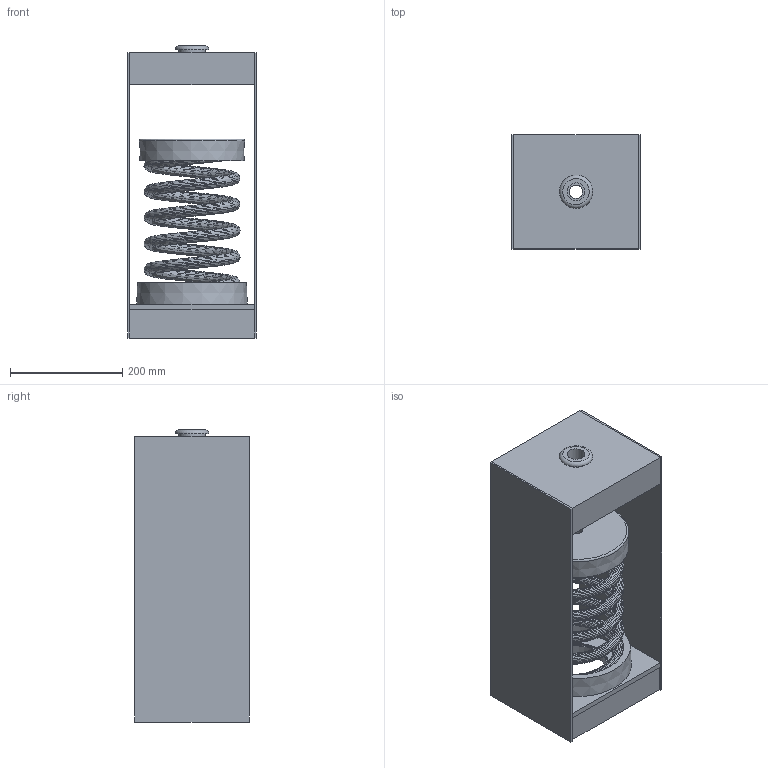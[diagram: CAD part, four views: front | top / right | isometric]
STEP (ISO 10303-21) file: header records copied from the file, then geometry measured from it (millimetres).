
FILE_DESCRIPTION(/* description */ (''),/* implementation_level */ '2;1');
FILE_NAME(/* name */ 'C:\001_Work\Designs\HANGER BOXES\30N 100 SERIES\30N-136, 158-159\30N-159.stp',/* time_stamp */ '2015-06-01T09:58:10-04:00',/* author */ ('rramoutar'),/* organization */ ('Mason Industries Inc.'),/* preprocessor_version */ 'ST-DEVELOPER v15.2',/* originating_system */ 'Autodesk Inventor 2014',/* authorisation */ '');
FILE_SCHEMA (('AUTOMOTIVE_DESIGN { 1 0 10303 214 3 1 1 }'));
Length unit declared in the file: inch
Products named in the file (1): 30N-159
Bounding box: 228.6 x 203.2 x 519.87 mm (x, y, z)
Volume: 2834670.9 mm3; surface area: 1343790.3 mm2
Topology: 13 solids, 14 shells, 176 faces, 409 edges, 273 vertices
Faces by surface type: plane 108, cylinder 29, bspline 22, cone 15, torus 2
Full cylindrical faces by diameter (mm): 23.812 x2, 31.75 x2, 41.275 x2, 46.831 x1, 47.625 x1, 82.55 x2, 92.075 x1, 96.837 x1, 96.838 x1, 107.95 x1, 112.712 x1, 114.3 x2, 117.475 x2, 169.862 x1, 174.625 x2, 176.212 x1
Entity records: 17976 total; most frequent: CARTESIAN_POINT 13949, ORIENTED_EDGE 758, DIRECTION 710, EDGE_CURVE 379, VERTEX_POINT 271, AXIS2_PLACEMENT_3D 248, EDGE_LOOP 236, LINE 214
